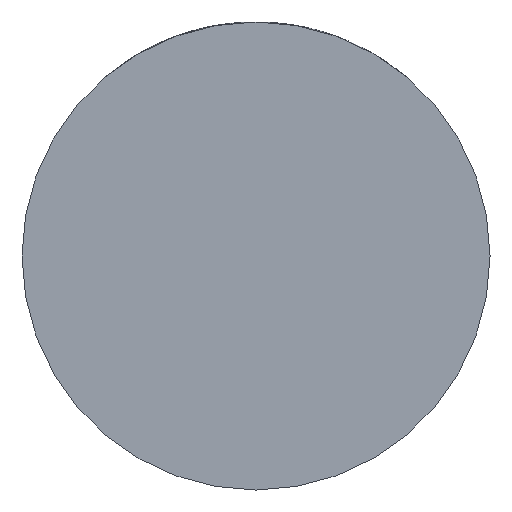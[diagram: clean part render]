
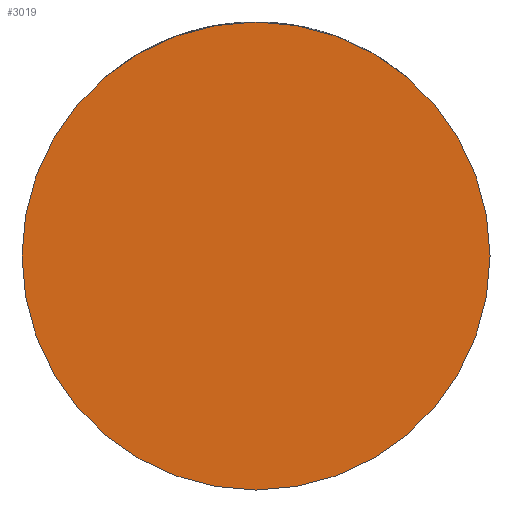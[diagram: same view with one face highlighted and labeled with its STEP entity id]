
A CAD part, front view. The second image highlights one B-rep face of the part: STEP entity #3019.
In plain terms, the highlighted planar face has unit normal (0, -1, 0).
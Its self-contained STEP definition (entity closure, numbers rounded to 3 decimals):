
#16 = PLANE ( 'NONE',  #3972 ) ;
#175 = CARTESIAN_POINT ( 'NONE',  ( 0., -28., 0. ) ) ;
#451 = DIRECTION ( 'NONE',  ( 1., 0., 0. ) ) ;
#707 = EDGE_CURVE ( 'NONE', #2721, #2542, #3935, .T. ) ;
#806 = FACE_OUTER_BOUND ( 'NONE', #1310, .T. ) ;
#1220 = CARTESIAN_POINT ( 'NONE',  ( -32., -28., 0. ) ) ;
#1310 = EDGE_LOOP ( 'NONE', ( #2048, #3961 ) ) ;
#1322 = DIRECTION ( 'NONE',  ( 1., 0., 0. ) ) ;
#1417 = DIRECTION ( 'NONE',  ( 0., -1., 0. ) ) ;
#1455 = AXIS2_PLACEMENT_3D ( 'NONE', #175, #1566, #451 ) ;
#1566 = DIRECTION ( 'NONE',  ( 0., -1., 0. ) ) ;
#1982 = CARTESIAN_POINT ( 'NONE',  ( 0., -28., 0. ) ) ;
#2048 = ORIENTED_EDGE ( 'NONE', *, *, #707, .T. ) ;
#2099 = DIRECTION ( 'NONE',  ( 1., 0., 0. ) ) ;
#2177 = CARTESIAN_POINT ( 'NONE',  ( 32., -28., 0. ) ) ;
#2542 = VERTEX_POINT ( 'NONE', #2177 ) ;
#2721 = VERTEX_POINT ( 'NONE', #1220 ) ;
#2800 = CARTESIAN_POINT ( 'NONE',  ( 0., -28., 0. ) ) ;
#2923 = EDGE_CURVE ( 'NONE', #2542, #2721, #4178, .T. ) ;
#3019 = ADVANCED_FACE ( 'NONE', ( #806 ), #16, .T. ) ;
#3392 = DIRECTION ( 'NONE',  ( 0., -1., 0. ) ) ;
#3821 = AXIS2_PLACEMENT_3D ( 'NONE', #1982, #3392, #1322 ) ;
#3935 = CIRCLE ( 'NONE', #1455, 32. ) ;
#3961 = ORIENTED_EDGE ( 'NONE', *, *, #2923, .T. ) ;
#3972 = AXIS2_PLACEMENT_3D ( 'NONE', #2800, #1417, #2099 ) ;
#4178 = CIRCLE ( 'NONE', #3821, 32. ) ;
